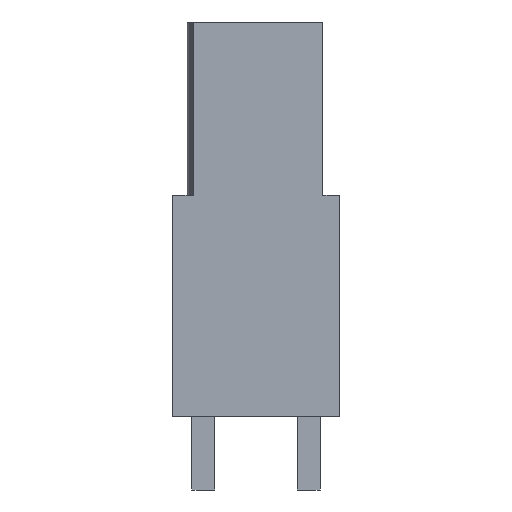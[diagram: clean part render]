
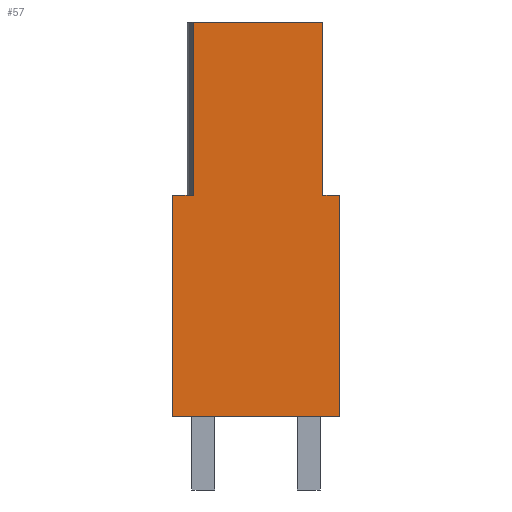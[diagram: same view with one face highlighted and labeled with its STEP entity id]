
A CAD part, left-side view. The second image highlights one B-rep face of the part: STEP entity #57.
In plain terms, the highlighted planar face has unit normal (-1, 0, 0).
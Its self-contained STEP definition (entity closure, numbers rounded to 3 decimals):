
#21 = EDGE_CURVE('',#22,#24,#26,.T.);
#22 = VERTEX_POINT('',#23);
#23 = CARTESIAN_POINT('',(-2.54,-4.,0.));
#24 = VERTEX_POINT('',#25);
#25 = CARTESIAN_POINT('',(-2.54,-4.,10.6));
#26 = LINE('',#27,#28);
#27 = CARTESIAN_POINT('',(-2.54,-4.,0.));
#28 = VECTOR('',#29,1.);
#29 = DIRECTION('',(0.,0.,1.));
#57 = ADVANCED_FACE('',(#58),#115,.T.);
#58 = FACE_BOUND('',#59,.T.);
#59 = EDGE_LOOP('',(#60,#70,#76,#77,#85,#93,#101,#109));
#60 = ORIENTED_EDGE('',*,*,#61,.F.);
#61 = EDGE_CURVE('',#62,#64,#66,.T.);
#62 = VERTEX_POINT('',#63);
#63 = CARTESIAN_POINT('',(-2.54,4.,0.));
#64 = VERTEX_POINT('',#65);
#65 = CARTESIAN_POINT('',(-2.54,4.,10.6));
#66 = LINE('',#67,#68);
#67 = CARTESIAN_POINT('',(-2.54,4.,0.));
#68 = VECTOR('',#69,1.);
#69 = DIRECTION('',(0.,0.,1.));
#70 = ORIENTED_EDGE('',*,*,#71,.T.);
#71 = EDGE_CURVE('',#62,#22,#72,.T.);
#72 = LINE('',#73,#74);
#73 = CARTESIAN_POINT('',(-2.54,4.,0.));
#74 = VECTOR('',#75,1.);
#75 = DIRECTION('',(0.,-1.,0.));
#76 = ORIENTED_EDGE('',*,*,#21,.T.);
#77 = ORIENTED_EDGE('',*,*,#78,.F.);
#78 = EDGE_CURVE('',#79,#24,#81,.T.);
#79 = VERTEX_POINT('',#80);
#80 = CARTESIAN_POINT('',(-2.54,-3.2,10.6));
#81 = LINE('',#82,#83);
#82 = CARTESIAN_POINT('',(-2.54,4.,10.6));
#83 = VECTOR('',#84,1.);
#84 = DIRECTION('',(0.,-1.,0.));
#85 = ORIENTED_EDGE('',*,*,#86,.T.);
#86 = EDGE_CURVE('',#79,#87,#89,.T.);
#87 = VERTEX_POINT('',#88);
#88 = CARTESIAN_POINT('',(-2.54,-3.2,18.9));
#89 = LINE('',#90,#91);
#90 = CARTESIAN_POINT('',(-2.54,-3.2,10.6));
#91 = VECTOR('',#92,1.);
#92 = DIRECTION('',(0.,0.,1.));
#93 = ORIENTED_EDGE('',*,*,#94,.T.);
#94 = EDGE_CURVE('',#87,#95,#97,.T.);
#95 = VERTEX_POINT('',#96);
#96 = CARTESIAN_POINT('',(-2.54,3.,18.9));
#97 = LINE('',#98,#99);
#98 = CARTESIAN_POINT('',(-2.54,-3.2,18.9));
#99 = VECTOR('',#100,1.);
#100 = DIRECTION('',(0.,1.,0.));
#101 = ORIENTED_EDGE('',*,*,#102,.F.);
#102 = EDGE_CURVE('',#103,#95,#105,.T.);
#103 = VERTEX_POINT('',#104);
#104 = CARTESIAN_POINT('',(-2.54,3.,10.6));
#105 = LINE('',#106,#107);
#106 = CARTESIAN_POINT('',(-2.54,3.,10.6));
#107 = VECTOR('',#108,1.);
#108 = DIRECTION('',(0.,0.,1.));
#109 = ORIENTED_EDGE('',*,*,#110,.F.);
#110 = EDGE_CURVE('',#64,#103,#111,.T.);
#111 = LINE('',#112,#113);
#112 = CARTESIAN_POINT('',(-2.54,4.,10.6));
#113 = VECTOR('',#114,1.);
#114 = DIRECTION('',(0.,-1.,0.));
#115 = PLANE('',#116);
#116 = AXIS2_PLACEMENT_3D('',#117,#118,#119);
#117 = CARTESIAN_POINT('',(-2.54,-0.031,9.172));
#118 = DIRECTION('',(-1.,-0.,-0.));
#119 = DIRECTION('',(0.,0.,-1.));
